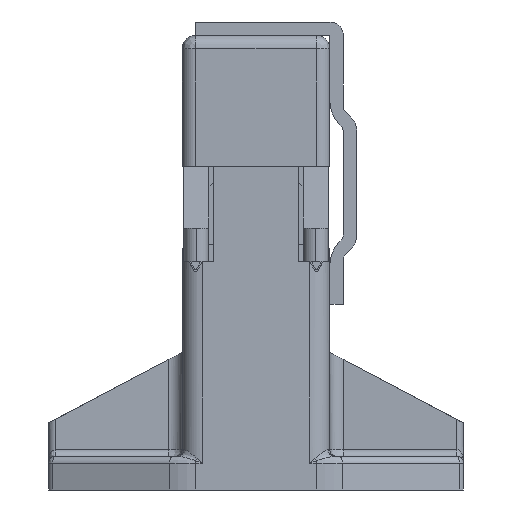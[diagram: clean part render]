
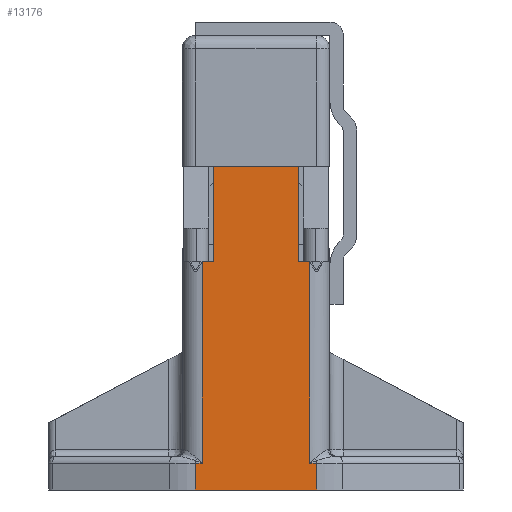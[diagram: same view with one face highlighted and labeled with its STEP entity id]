
A CAD part, left-side view. The second image highlights one B-rep face of the part: STEP entity #13176.
In plain terms, the highlighted planar face has unit normal (-1, 0, 0).
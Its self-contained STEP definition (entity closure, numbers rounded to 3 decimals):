
#349 = VERTEX_POINT ( 'NONE', #31430 ) ;
#1071 = ORIENTED_EDGE ( 'NONE', *, *, #64088, .T. ) ;
#1132 = CARTESIAN_POINT ( 'NONE',  ( -193.899, 6.4, 10. ) ) ;
#3098 = VERTEX_POINT ( 'NONE', #1132 ) ;
#3931 = EDGE_CURVE ( 'NONE', #17726, #9820, #24674, .T. ) ;
#4325 = ORIENTED_EDGE ( 'NONE', *, *, #40914, .F. ) ;
#4900 = CARTESIAN_POINT ( 'NONE',  ( -193.899, -6.4, 10. ) ) ;
#5465 = ORIENTED_EDGE ( 'NONE', *, *, #31949, .F. ) ;
#6499 = ORIENTED_EDGE ( 'NONE', *, *, #29960, .F. ) ;
#7408 = VERTEX_POINT ( 'NONE', #18859 ) ;
#7679 = VERTEX_POINT ( 'NONE', #21253 ) ;
#9381 = LINE ( 'NONE', #57555, #58206 ) ;
#9820 = VERTEX_POINT ( 'NONE', #19798 ) ;
#10066 = CARTESIAN_POINT ( 'NONE',  ( -193.899, 11., 10. ) ) ;
#11087 = CARTESIAN_POINT ( 'NONE',  ( -193.899, 6.4, 24.2 ) ) ;
#11553 = LINE ( 'NONE', #21488, #42164 ) ;
#11695 = CARTESIAN_POINT ( 'NONE',  ( -193.899, 9.011, -24. ) ) ;
#13176 = ADVANCED_FACE ( 'NONE', ( #20760 ), #46947, .F. ) ;
#15635 = VERTEX_POINT ( 'NONE', #50172 ) ;
#16266 = ORIENTED_EDGE ( 'NONE', *, *, #65447, .T. ) ;
#17257 = LINE ( 'NONE', #11087, #19210 ) ;
#17591 = ORIENTED_EDGE ( 'NONE', *, *, #54788, .F. ) ;
#17726 = VERTEX_POINT ( 'NONE', #61167 ) ;
#17918 = DIRECTION ( 'NONE',  ( 0., -1., 0. ) ) ;
#18067 = EDGE_CURVE ( 'NONE', #7679, #3098, #17257, .T. ) ;
#18141 = ORIENTED_EDGE ( 'NONE', *, *, #37154, .F. ) ;
#18859 = CARTESIAN_POINT ( 'NONE',  ( -193.899, 8., 10. ) ) ;
#19210 = VECTOR ( 'NONE', #77857, 1000. ) ;
#19798 = CARTESIAN_POINT ( 'NONE',  ( -193.899, -9.011, -20. ) ) ;
#20760 = FACE_OUTER_BOUND ( 'NONE', #74975, .T. ) ;
#21253 = CARTESIAN_POINT ( 'NONE',  ( -193.899, 6.4, 24.2 ) ) ;
#21488 = CARTESIAN_POINT ( 'NONE',  ( -193.899, -6.4, 24.2 ) ) ;
#22015 = VECTOR ( 'NONE', #48173, 1000. ) ;
#22587 = VECTOR ( 'NONE', #23415, 1000. ) ;
#23415 = DIRECTION ( 'NONE',  ( 0., 0., 1. ) ) ;
#23596 = ORIENTED_EDGE ( 'NONE', *, *, #32008, .F. ) ;
#24357 = CARTESIAN_POINT ( 'NONE',  ( -193.899, -8., -23.243 ) ) ;
#24416 = VERTEX_POINT ( 'NONE', #36164 ) ;
#24674 = LINE ( 'NONE', #51198, #49454 ) ;
#28339 = VERTEX_POINT ( 'NONE', #52279 ) ;
#29960 = EDGE_CURVE ( 'NONE', #7679, #71145, #68851, .T. ) ;
#30684 = ORIENTED_EDGE ( 'NONE', *, *, #18067, .T. ) ;
#30886 = EDGE_CURVE ( 'NONE', #24416, #15635, #31520, .T. ) ;
#31430 = CARTESIAN_POINT ( 'NONE',  ( -193.899, -8., 10. ) ) ;
#31520 = LINE ( 'NONE', #47578, #53512 ) ;
#31670 = ORIENTED_EDGE ( 'NONE', *, *, #69261, .F. ) ;
#31949 = EDGE_CURVE ( 'NONE', #15635, #7408, #75081, .T. ) ;
#32008 = EDGE_CURVE ( 'NONE', #61261, #349, #38769, .T. ) ;
#34151 = AXIS2_PLACEMENT_3D ( 'NONE', #10066, #70748, #34953 ) ;
#34953 = DIRECTION ( 'NONE',  ( 0., 0., -1. ) ) ;
#36164 = CARTESIAN_POINT ( 'NONE',  ( -193.899, 9.011, -20. ) ) ;
#37154 = EDGE_CURVE ( 'NONE', #74265, #24416, #57714, .T. ) ;
#37626 = ORIENTED_EDGE ( 'NONE', *, *, #30886, .F. ) ;
#38413 = DIRECTION ( 'NONE',  ( 0., 0., -1. ) ) ;
#38769 = LINE ( 'NONE', #41549, #77943 ) ;
#40914 = EDGE_CURVE ( 'NONE', #7408, #3098, #51785, .T. ) ;
#41549 = CARTESIAN_POINT ( 'NONE',  ( -193.899, -11., 10. ) ) ;
#42164 = VECTOR ( 'NONE', #64249, 1000. ) ;
#43086 = DIRECTION ( 'NONE',  ( 0., -1., 0. ) ) ;
#46947 = PLANE ( 'NONE',  #34151 ) ;
#47578 = CARTESIAN_POINT ( 'NONE',  ( -193.899, 11., -20. ) ) ;
#48173 = DIRECTION ( 'NONE',  ( 0., -1., 0. ) ) ;
#49454 = VECTOR ( 'NONE', #75734, 1000. ) ;
#50172 = CARTESIAN_POINT ( 'NONE',  ( -193.899, 8., -20. ) ) ;
#51198 = CARTESIAN_POINT ( 'NONE',  ( -193.899, 11., -20. ) ) ;
#51785 = LINE ( 'NONE', #67406, #62282 ) ;
#52279 = CARTESIAN_POINT ( 'NONE',  ( -193.899, -9.011, -24. ) ) ;
#53512 = VECTOR ( 'NONE', #17918, 1000. ) ;
#54788 = EDGE_CURVE ( 'NONE', #9820, #28339, #9381, .T. ) ;
#57555 = CARTESIAN_POINT ( 'NONE',  ( -193.899, -9.011, 10. ) ) ;
#57714 = LINE ( 'NONE', #63005, #65382 ) ;
#58206 = VECTOR ( 'NONE', #75641, 1000. ) ;
#58749 = DIRECTION ( 'NONE',  ( 0., 0., 1. ) ) ;
#59296 = LINE ( 'NONE', #60546, #22015 ) ;
#60546 = CARTESIAN_POINT ( 'NONE',  ( -193.899, -11., -24. ) ) ;
#61167 = CARTESIAN_POINT ( 'NONE',  ( -193.899, -8., -20. ) ) ;
#61261 = VERTEX_POINT ( 'NONE', #4900 ) ;
#61521 = CARTESIAN_POINT ( 'NONE',  ( -193.899, -6.4, 24.2 ) ) ;
#62215 = CARTESIAN_POINT ( 'NONE',  ( -193.899, 11., 24.2 ) ) ;
#62282 = VECTOR ( 'NONE', #43086, 1000. ) ;
#63005 = CARTESIAN_POINT ( 'NONE',  ( -193.899, 9.011, 10. ) ) ;
#64088 = EDGE_CURVE ( 'NONE', #61261, #71145, #11553, .T. ) ;
#64249 = DIRECTION ( 'NONE',  ( 0., 0., 1. ) ) ;
#65382 = VECTOR ( 'NONE', #58749, 1000. ) ;
#65447 = EDGE_CURVE ( 'NONE', #74265, #28339, #59296, .T. ) ;
#65646 = CARTESIAN_POINT ( 'NONE',  ( -193.899, 8., -23.243 ) ) ;
#66963 = VECTOR ( 'NONE', #74914, 1000. ) ;
#67406 = CARTESIAN_POINT ( 'NONE',  ( -193.899, -11., 10. ) ) ;
#68851 = LINE ( 'NONE', #62215, #66963 ) ;
#69261 = EDGE_CURVE ( 'NONE', #349, #17726, #74348, .T. ) ;
#70748 = DIRECTION ( 'NONE',  ( 1., 0., 0. ) ) ;
#71145 = VERTEX_POINT ( 'NONE', #61521 ) ;
#74265 = VERTEX_POINT ( 'NONE', #11695 ) ;
#74348 = LINE ( 'NONE', #24357, #78200 ) ;
#74878 = ORIENTED_EDGE ( 'NONE', *, *, #3931, .F. ) ;
#74914 = DIRECTION ( 'NONE',  ( 0., -1., 0. ) ) ;
#74975 = EDGE_LOOP ( 'NONE', ( #37626, #18141, #16266, #17591, #74878, #31670, #23596, #1071, #6499, #30684, #4325, #5465 ) ) ;
#75081 = LINE ( 'NONE', #65646, #22587 ) ;
#75641 = DIRECTION ( 'NONE',  ( 0., 0., -1. ) ) ;
#75734 = DIRECTION ( 'NONE',  ( 0., -1., 0. ) ) ;
#77857 = DIRECTION ( 'NONE',  ( 0., 0., -1. ) ) ;
#77943 = VECTOR ( 'NONE', #78123, 1000. ) ;
#78123 = DIRECTION ( 'NONE',  ( 0., -1., 0. ) ) ;
#78200 = VECTOR ( 'NONE', #38413, 1000. ) ;
